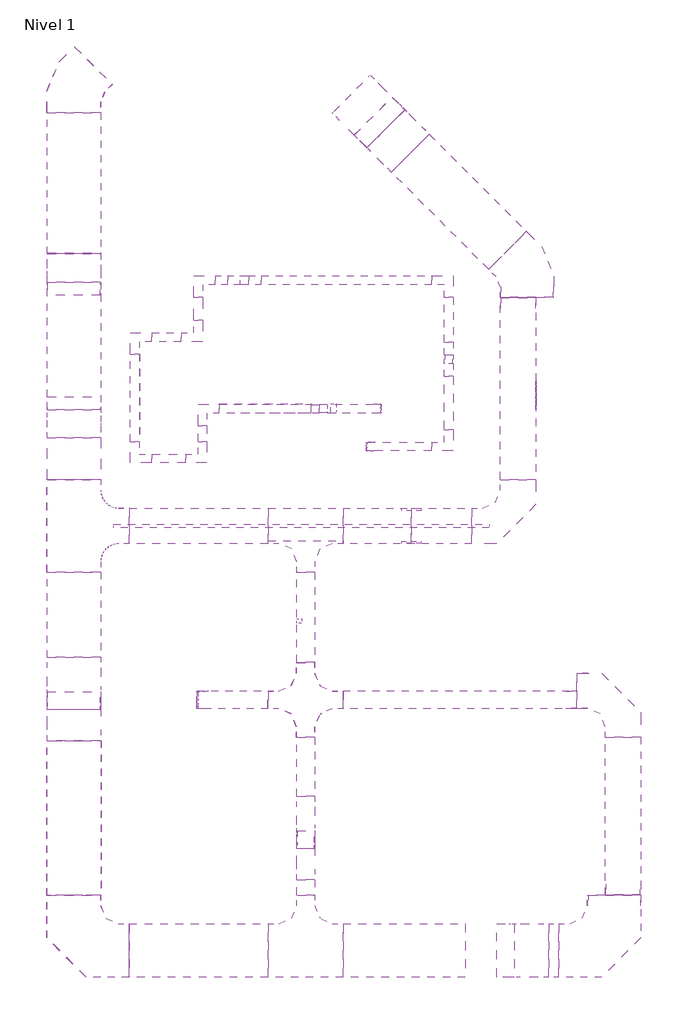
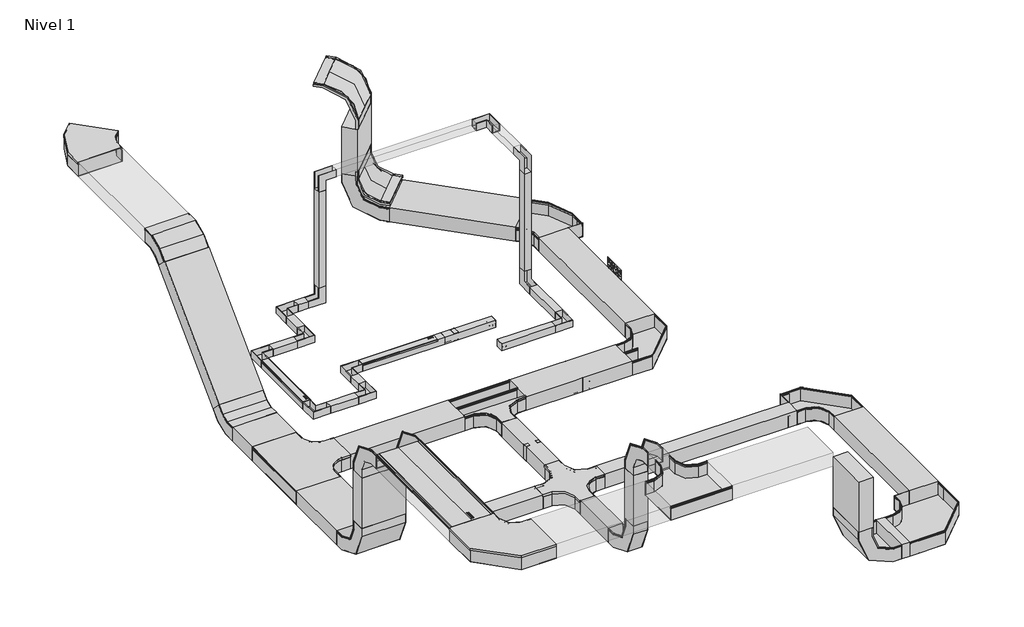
# One storey, incomplete: 36 cable carrier fittings, 36 cable carrier segments, 19 proxies.
"""IFC4 building model written with IfcOpenShell, lengths in millimetres."""

from ifc_helpers import new_model, si_unit, frame, origin, place, context, project, spatial, polyline, outline, extrude, transform, mapped, element, save
from components import generic_models_e08e2e93, generic_models_6503f62f, generic_models_c980e6e2, generic_models_5eda5abc, generic_models_029ad9ad, generic_models_4b91ea04, generic_models_b537d021, generic_models_f615600c, generic_models_85299ec2, generic_models_8c51f1e9, generic_models_648d6697, generic_models_243004cf, generic_models_e8f70c77, generic_models_0b94fb28, generic_models_92a7ed6a, generic_models_f5429365, generic_models_22f00882, generic_models_8213715d, cable_carrier_fitting_c11d5971, cable_carrier_fitting_7dd08698, cable_carrier_fitting_1b124e51, cable_carrier_fitting_58051795, cable_carrier_fitting_2066f91e, cable_carrier_fitting_6ee26a38, cable_carrier_fitting_8f606e74, cable_carrier_fitting_ebb957c4, cable_carrier_fitting_da196a82, cable_carrier_fitting_676bfd4c, cable_carrier_fitting_0c136e6a, cable_carrier_fitting_4fe643f0, cable_carrier_fitting_583218a9, cable_carrier_fitting_2e4e60a8, cable_carrier_fitting_490ff1a4, cable_carrier_fitting_9a046f3b, cable_carrier_fitting_3c1a814d, cable_carrier_fitting_408e2334, cable_carrier_fitting_66a21cff, cable_carrier_fitting_30d9f417, cable_carrier_fitting_c155dae2

model = new_model("IFC4")

# Units and contexts
model_context = context("Model", 3, world=origin())
ifc_project = project(units=[si_unit("LENGTHUNIT", "METRE", prefix="MILLI")], contexts=[model_context])

# Site, building, storey
site = spatial("IfcSite", under=ifc_project)
building = spatial("IfcBuilding", under=site)
storey = spatial("IfcBuildingStorey", under=building, Name="Nivel 1", Elevation=0.0)

# Proxies
placement = place(None, origin())
generic_models_shape = generic_models_e08e2e93(model_context)
element("IfcBuildingElementProxy", 1, Name="Cable_Tray_Cover_TAS_Basortray : Basortray TAS 100-GS", ObjectType="Cable_Tray_Cover_TAS_Basortray : Basortray TAS 100-GS", at=placement, inside=storey, context=model_context, shape_type="MappedRepresentation", body=[
    mapped(generic_models_shape, transform((-2932.7418165, -1714.0005288, 1505.0411788), x_axis=(1.0, 0.0, 0.0), y_axis=(0.0, 1.0, 0.0), z_axis=(0.0, 0.0, 1.0))),
])
generic_models_2_shape = generic_models_6503f62f(model_context)
element("IfcBuildingElementProxy", 2, Name="Cable_Tray_Cover_TCCERC45_Basortray : Basortray TCCERC45-300-GS", ObjectType="Cable_Tray_Cover_TCCERC45_Basortray : Basortray TCCERC45-300-GS", at=placement, inside=storey, context=model_context, shape_type="MappedRepresentation", body=[
    mapped(generic_models_2_shape, transform((-4232.7386404, -1120.0766836, 1505.0520425), x_axis=(-1.0, 0.0, 0.0), y_axis=(0.0, -1.0, 0.0), z_axis=(0.0, 0.0, 1.0))),
])
generic_models_3_shape = generic_models_c980e6e2(model_context)
element("IfcBuildingElementProxy", 3, Name="Cable_Tray_Cover_TCCERC_Basortray : Basortray TCCERC 300-GS", ObjectType="Cable_Tray_Cover_TCCERC_Basortray : Basortray TCCERC 300-GS", at=placement, inside=storey, context=model_context, shape_type="MappedRepresentation", body=[
    mapped(generic_models_3_shape, transform((-2483.1374655, 612.2409935, 1535.0411788), x_axis=(0.7071067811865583, 0.7071067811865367, 0.0), y_axis=(-0.7071067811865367, 0.7071067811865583, 0.0), z_axis=(0.0, 0.0, 1.0))),
])
generic_models_4_shape = generic_models_5eda5abc(model_context)
element("IfcBuildingElementProxy", 4, Name="Cable_Tray_Cover_TCPERC45_Basortray : Basortray TCPERC45-300-GS", ObjectType="Cable_Tray_Cover_TCPERC45_Basortray : Basortray TCPERC45-300-GS", at=placement, inside=storey, context=model_context, shape_type="MappedRepresentation", body=[
    mapped(generic_models_4_shape, transform((-4083.8612043, 762.7979534, 2309.2411788), x_axis=(1.0, 0.0, 0.0), y_axis=(0.0, 1.0, 0.0), z_axis=(0.0, 0.0, 1.0))),
])
generic_models_5_shape = generic_models_029ad9ad(model_context)
element("IfcBuildingElementProxy", 5, Name="Cable_Tray_Support_Box_SUCP_Basortray : Basortray SUCP-GS", ObjectType="Cable_Tray_Support_Box_SUCP_Basortray : Basortray SUCP-GS", at=placement, inside=storey, context=model_context, shape_type="MappedRepresentation", body=[
    mapped(generic_models_5_shape, transform((-1641.458026, -880.1930657, 1512.1289575), x_axis=(0.0, 1.0, 0.0), y_axis=(0.0, 0.0, 1.0), z_axis=(1.0, 0.0, 0.0))),
])
generic_models_6_shape = generic_models_4b91ea04(model_context)
element("IfcBuildingElementProxy", 6, Name="Cable_Tray_FinalCover_TFERE 50_Basortray : Basortray TFERE 50-GS", ObjectType="Cable_Tray_FinalCover_TFERE 50_Basortray : Basortray TFERE 50-GS", at=placement, inside=storey, context=model_context, shape_type="MappedRepresentation", body=[
    mapped(generic_models_6_shape, transform((-2591.3454826, -1169.6026958, 1500.0), x_axis=(0.0, -1.0, 0.0), y_axis=(0.0, 0.0, 1.0), z_axis=(-1.0, 0.0, 0.0))),
])
element("IfcBuildingElementProxy", 7, Name="Cable_Tray_FinalCover_TFERE 50_Basortray : Basortray TFERE 50-GS", ObjectType="Cable_Tray_FinalCover_TFERE 50_Basortray : Basortray TFERE 50-GS", at=placement, inside=storey, context=model_context, shape_type="MappedRepresentation", body=[
    mapped(generic_models_6_shape, transform((-2510.692195, -956.9482563, 1510.5), x_axis=(0.0, 1.0, 0.0), y_axis=(0.0, 0.0, 1.0), z_axis=(1.0, 0.0, 0.0))),
])
generic_models_7_shape = generic_models_b537d021(model_context)
element("IfcBuildingElementProxy", 8, Name="Cable_Tray_CoverRetainer_PTER 50x50_Basortray : Basortray PTER 50x50-i304", ObjectType="Cable_Tray_CoverRetainer_PTER 50x50_Basortray : Basortray PTER 50x50-i304", at=placement, inside=storey, context=model_context, shape_type="MappedRepresentation", body=[
    mapped(generic_models_7_shape, transform((-2761.7009747, -981.9442035, 1535.5), x_axis=(6.754696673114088e-05, 0.9999999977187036, 0.0), y_axis=(-0.9999999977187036, 6.754696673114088e-05, 0.0), z_axis=(0.0, 0.0, 1.0))),
])
generic_models_8_shape = generic_models_f615600c(model_context)
element("IfcBuildingElementProxy", 9, Name="Cable_Tray_CoverRetainer_P T ERE_Basortray : Basortray P T ERE-i304-100", ObjectType="Cable_Tray_CoverRetainer_P T ERE_Basortray : Basortray P T ERE-i304-100", at=placement, inside=storey, context=model_context, shape_type="MappedRepresentation", body=[
    mapped(generic_models_8_shape, transform((-2882.7384407, -2161.1537937, 1505.0485729), x_axis=(0.0, -2.4928024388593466e-05, -0.9999999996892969), y_axis=(0.0, 0.9999999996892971, -2.4928024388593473e-05), z_axis=(1.0000000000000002, 0.0, 0.0))),
])
generic_models_9_shape = generic_models_85299ec2(model_context)
element("IfcBuildingElementProxy", 10, Name="Cable_Tray_FinalCover_TFERE_Basortray : Basortray TFERE 100x80-GS", ObjectType="Cable_Tray_FinalCover_TFERE_Basortray : Basortray TFERE 100x80-GS", at=placement, inside=storey, context=model_context, shape_type="MappedRepresentation", body=[
    mapped(generic_models_9_shape, transform((-3542.7384407, -2590.0616098, 1446.2337687), x_axis=(0.0, 1.0, 0.0), y_axis=(0.0, 0.0, -1.0), z_axis=(-1.0, 0.0, 0.0))),
])
generic_models_10_shape = generic_models_8c51f1e9(model_context)
element("IfcBuildingElementProxy", 11, Name="Cable_Tray_Cover_TCPERC_Basortray : Basortray TCPERC 300-GS", ObjectType="Cable_Tray_Cover_TCPERC_Basortray : Basortray TCPERC 300-GS", at=placement, inside=storey, context=model_context, shape_type="MappedRepresentation", body=[
    mapped(generic_models_10_shape, transform((-4234.6449326, -3995.6258724, 2335.044089), x_axis=(0.0, 1.0, 0.0), y_axis=(-1.0, 0.0, 0.0), z_axis=(0.0, 0.0, 1.0))),
])
generic_models_11_shape = generic_models_648d6697(model_context)
element("IfcBuildingElementProxy", 12, Name="Cable_Tray_Cover_TCXERC_Basortray : Basortray TCXERC 300x100-GS", ObjectType="Cable_Tray_Cover_TCXERC_Basortray : Basortray TCXERC 300x100-GS", at=placement, inside=storey, context=model_context, shape_type="MappedRepresentation", body=[
    mapped(generic_models_11_shape, transform((-2483.1374655, 612.2409935, 2310.8456675), x_axis=(0.7071067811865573, 0.7071067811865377, 0.0), y_axis=(0.0, 0.0, 1.0), z_axis=(0.7071067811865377, -0.7071067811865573, 0.0))),
])
generic_models_12_shape = generic_models_243004cf(model_context)
element("IfcBuildingElementProxy", 13, Name="Cable_Tray_Cover_TCXERC45_Basortray : Basortray TCXERC45-300x100-GS", ObjectType="Cable_Tray_Cover_TCXERC45_Basortray : Basortray TCXERC45-300x100-GS", at=placement, inside=storey, context=model_context, shape_type="MappedRepresentation", body=[
    mapped(generic_models_12_shape, transform((-4232.7384407, -321.6280499, 2211.0289102), x_axis=(-1.0, 0.0, 0.0), y_axis=(0.0, -0.7071067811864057, -0.7071067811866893), z_axis=(0.0, -0.7071067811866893, 0.7071067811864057))),
])
generic_models_13_shape = generic_models_e8f70c77(model_context)
element("IfcBuildingElementProxy", 14, Name="Cable_Tray_Cover_T ERE 50_Basortray : Basortray TERE 50-GS", ObjectType="Cable_Tray_Cover_T ERE 50_Basortray : Basortray TERE 50-GS", at=placement, inside=storey, context=model_context, shape_type="MappedRepresentation", body=[
    mapped(generic_models_13_shape, transform((-2905.6921948, -956.9529012, 1535.5), x_axis=(-9.330842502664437e-05, 0.9999999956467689, 0.0), y_axis=(-0.9999999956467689, -9.330842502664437e-05, 0.0), z_axis=(0.0, 0.0, 1.0))),
])
generic_models_14_shape = generic_models_0b94fb28(model_context)
element("IfcBuildingElementProxy", 15, Name="Cable_Tray_Cover_T ERE 50_Basortray : Basortray TERE 50-GS", ObjectType="Cable_Tray_Cover_T ERE 50_Basortray : Basortray TERE 50-GS", at=placement, inside=storey, context=model_context, shape_type="MappedRepresentation", body=[
    mapped(generic_models_14_shape, transform((-3890.3692191, -1141.998818, 1535.5), x_axis=(1.0, 0.0, 0.0), y_axis=(0.0, 1.0, 0.0), z_axis=(0.0, 0.0, 1.0))),
])
generic_models_15_shape = generic_models_92a7ed6a(model_context)
element("IfcBuildingElementProxy", 16, Name="Cable_Tray_Cover_T ERE_Basortray : Basortray T ERE-GS-300", ObjectType="Cable_Tray_Cover_T ERE_Basortray : Basortray T ERE-GS-300", at=placement, inside=storey, context=model_context, shape_type="MappedRepresentation", body=[
    mapped(generic_models_15_shape, transform((-4232.7384407, -3684.5395421, 2335.044089), x_axis=(1.0, 0.0, 0.0), y_axis=(0.0, 1.0, 0.0), z_axis=(0.0, 0.0, 1.0))),
])
generic_models_16_shape = generic_models_f5429365(model_context)
element("IfcBuildingElementProxy", 17, Name="Cable_Tray_Cover_TTERC_Basortray : Basortray TTERC 300-GC", ObjectType="Cable_Tray_Cover_TTERC_Basortray : Basortray TTERC 300-GC", at=placement, inside=storey, context=model_context, shape_type="MappedRepresentation", body=[
    mapped(generic_models_16_shape, transform((-4082.0638429, -1614.6768328, 1505.0505408), x_axis=(0.0, 1.0, 0.0), y_axis=(-0.9999999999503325, 0.0, 9.966691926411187e-06), z_axis=(9.966691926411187e-06, 0.0, 0.9999999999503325))),
])
generic_models_17_shape = generic_models_22f00882(model_context)
element("IfcBuildingElementProxy", 18, Name="Cable_Tray_Cover_TCRERC_Basortray : Basortray TCRERC 100-GS", ObjectType="Cable_Tray_Cover_TCRERC_Basortray : Basortray TCRERC 100-GS", at=placement, inside=storey, context=model_context, shape_type="MappedRepresentation", body=[
    mapped(generic_models_17_shape, transform((-2883.7907322, -2590.6813983, 1505.0590309), x_axis=(0.0, 0.9999999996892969, -2.492802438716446e-05), y_axis=(-1.0000000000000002, 0.0, 0.0), z_axis=(0.0, 2.492802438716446e-05, 0.9999999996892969))),
])
generic_models_18_shape = generic_models_8213715d(model_context)
element("IfcBuildingElementProxy", 19, Name="Cable_Tray_Divider_Profile_PS_Basortray : Basortray PS-GS-100", ObjectType="Cable_Tray_Divider_Profile_PS_Basortray : Basortray PS-GS-100", at=placement, inside=storey, context=model_context, shape_type="MappedRepresentation", body=[
    mapped(generic_models_18_shape, transform((-4010.1217377, -1614.5395421, 1407.5811788), x_axis=(0.0, -1.0, 0.0), y_axis=(1.0, 0.0, 0.0), z_axis=(0.0, 0.0, 1.0))),
])

# Cable carrier fittings
cable_carrier_fitting_shape = cable_carrier_fitting_c11d5971(model_context)
element("IfcCableCarrierFitting", 20, ObjectType="CCERC45_Vertical_Inside_Bend-Basortray : Basortray CCERC45-GS", at=placement, inside=storey, context=model_context, shape_type="MappedRepresentation", body=[
    mapped(cable_carrier_fitting_shape, transform((-4382.7386404, -916.0766836, 1505.0520425), x_axis=(0.0, 1.0, 0.0), y_axis=(0.0, 0.0, 1.0), z_axis=(1.0, 0.0, 0.0))),
])
cable_carrier_fitting_2_shape = cable_carrier_fitting_7dd08698(model_context)
element("IfcCableCarrierFitting", 21, ObjectType="JUER 50x50_Junction-Basortray : Basortray JUER50-GS", at=placement, inside=storey, context=model_context, shape_type="MappedRepresentation", body=[
    mapped(cable_carrier_fitting_2_shape, transform((-2855.692195, -956.9482563, 1500.0), x_axis=(-0.9999999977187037, -6.754696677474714e-05, 0.0), y_axis=(6.754696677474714e-05, -0.9999999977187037, 0.0), z_axis=(0.0, 0.0, 1.0))),
])
cable_carrier_fitting_3_shape = cable_carrier_fitting_1b124e51(model_context)
element("IfcCableCarrierFitting", 22, ObjectType="CCERC_Vertical_Inside_Bend-Basortray : Basortray CCERC-GS", at=placement, inside=storey, context=model_context, shape_type="MappedRepresentation", body=[
    mapped(cable_carrier_fitting_3_shape, transform((-4232.7386404, -2594.5395421, 1455.0520425), x_axis=(0.0, -1.0, 0.0), y_axis=(0.0, 0.0, 1.0), z_axis=(-1.0, 0.0, 0.0))),
])
element("IfcCableCarrierFitting", 23, ObjectType="CCERC_Vertical_Inside_Bend-Basortray : Basortray CCERC-GS", at=placement, inside=storey, context=model_context, shape_type="MappedRepresentation", body=[
    mapped(cable_carrier_fitting_3_shape, transform((-1812.7384407, -3994.5395421, 1455.0590007), x_axis=(0.0, 0.0, -1.0), y_axis=(1.0, 0.0, 0.0), z_axis=(0.0, -1.0, 0.0))),
])
element("IfcCableCarrierFitting", 24, ObjectType="CCERC_Vertical_Inside_Bend-Basortray : Basortray CCERC-GS", at=placement, inside=storey, context=model_context, shape_type="MappedRepresentation", body=[
    mapped(cable_carrier_fitting_3_shape, transform((-2518.4928046, 647.5963326, 1455.0411788), x_axis=(0.0, 0.0, -1.0), y_axis=(0.7071067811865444, -0.7071067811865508, 0.0), z_axis=(-0.7071067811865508, -0.7071067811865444, 0.0))),
])
cable_carrier_fitting_4_shape = cable_carrier_fitting_58051795(model_context)
element("IfcCableCarrierFitting", 25, ObjectType="CCERC_Vertical_Inside_Bend-Basortray : Basortray CCERC-GS", at=placement, inside=storey, context=model_context, shape_type="MappedRepresentation", body=[
    mapped(cable_carrier_fitting_4_shape, transform((-2932.7384407, -3374.5400417, 1455.0590007), x_axis=(0.0, 0.0, -1.0), y_axis=(0.0, 1.0, 0.0), z_axis=(1.0, 0.0, 0.0))),
])
cable_carrier_fitting_5_shape = cable_carrier_fitting_2066f91e(model_context)
element("IfcCableCarrierFitting", 26, ObjectType="CCER 50x50_Vertical_Inside_Bend-Basortray : Basortray CCER50-GS", at=placement, inside=storey, context=model_context, shape_type="MappedRepresentation", body=[
    mapped(cable_carrier_fitting_5_shape, transform((-2131.3454826, -679.6026958, 1500.0), x_axis=(0.0, 1.0, 0.0), y_axis=(0.0, 0.0, 1.0), z_axis=(1.0, 0.0, 0.0))),
])
element("IfcCableCarrierFitting", 27, ObjectType="CCER 50x50_Vertical_Inside_Bend-Basortray : Basortray CCER50-GS", at=placement, inside=storey, context=model_context, shape_type="MappedRepresentation", body=[
    mapped(cable_carrier_fitting_5_shape, transform((-3275.5826719, -236.998818, 1510.5), x_axis=(1.0, 0.0, 0.0), y_axis=(0.0, 0.0, 1.0), z_axis=(0.0, -1.0, 0.0))),
])
cable_carrier_fitting_6_shape = cable_carrier_fitting_6ee26a38(model_context)
element("IfcCableCarrierFitting", 28, ObjectType="CPER 50x50_Horizontal_Bend-Basortray : Basortray CPER50-GC", at=placement, inside=storey, context=model_context, shape_type="MappedRepresentation", body=[
    mapped(cable_carrier_fitting_6_shape, transform((-3535.5826719, -556.998818, 1510.5), x_axis=(1.0, 0.0, 0.0), y_axis=(0.0, 1.0, 0.0), z_axis=(0.0, 0.0, 1.0))),
])
element("IfcCableCarrierFitting", 29, ObjectType="CPER 50x50_Horizontal_Bend-Basortray : Basortray CPER50-GS", at=placement, inside=storey, context=model_context, shape_type="MappedRepresentation", body=[
    mapped(cable_carrier_fitting_6_shape, transform((-3891.0885985, -556.998818, 1510.5), x_axis=(-1.0, 0.0, 0.0), y_axis=(0.0, -1.0, 0.0), z_axis=(0.0, 0.0, 1.0))),
])
element("IfcCableCarrierFitting", 30, ObjectType="CPER 50x50_Horizontal_Bend-Basortray : Basortray CPER50-GS", at=placement, inside=storey, context=model_context, shape_type="MappedRepresentation", body=[
    mapped(cable_carrier_fitting_6_shape, transform((-3891.0885985, -1236.998818, 1510.5), x_axis=(0.0, -1.0, 0.0), y_axis=(1.0, 0.0, 0.0), z_axis=(0.0, 0.0, 1.0))),
])
element("IfcCableCarrierFitting", 31, ObjectType="CPER 50x50_Horizontal_Bend-Basortray : Basortray CPER50-GS", at=placement, inside=storey, context=model_context, shape_type="MappedRepresentation", body=[
    mapped(cable_carrier_fitting_6_shape, transform((-3511.0794969, -1236.998818, 1510.5), x_axis=(1.0, 0.0, 0.0), y_axis=(0.0, 1.0, 0.0), z_axis=(0.0, 0.0, 1.0))),
])
element("IfcCableCarrierFitting", 32, ObjectType="CPER 50x50_Horizontal_Bend-Basortray : Basortray CPER50-GS", at=placement, inside=storey, context=model_context, shape_type="MappedRepresentation", body=[
    mapped(cable_carrier_fitting_6_shape, transform((-3511.0885971, -957.0096256, 1510.5), x_axis=(-0.9999999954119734, -9.579171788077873e-05, 0.0), y_axis=(9.579171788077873e-05, -0.9999999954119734, 0.0), z_axis=(0.0, 0.0, 1.0))),
])
element("IfcCableCarrierFitting", 33, ObjectType="CPER 50x50_Horizontal_Bend-Basortray : Basortray CPER50-GS", at=placement, inside=storey, context=model_context, shape_type="MappedRepresentation", body=[
    mapped(cable_carrier_fitting_6_shape, transform((-2131.3454826, -1169.6026958, 1500.0), x_axis=(1.0, 0.0, 0.0), y_axis=(0.0, 1.0, 0.0), z_axis=(0.0, 0.0, 1.0))),
])
element("IfcCableCarrierFitting", 34, ObjectType="CPER 50x50_Horizontal_Bend-Basortray : Basortray CPER50-GS", at=placement, inside=storey, context=model_context, shape_type="MappedRepresentation", body=[
    mapped(cable_carrier_fitting_6_shape, transform((-2131.3454826, -236.998818, 2391.5969095), x_axis=(0.0, 1.0, 0.0), y_axis=(-1.0, 0.0, 0.0), z_axis=(0.0, 0.0, 1.0))),
])
element("IfcCableCarrierFitting", 35, ObjectType="CPER 50x50_Horizontal_Bend-Basortray : Basortray CPER50-GS", at=placement, inside=storey, context=model_context, shape_type="MappedRepresentation", body=[
    mapped(cable_carrier_fitting_6_shape, transform((-3535.5826719, -236.998818, 1510.5), x_axis=(-1.0, 0.0, 0.0), y_axis=(0.0, -1.0, 0.0), z_axis=(0.0, 0.0, 1.0))),
])
cable_carrier_fitting_7_shape = cable_carrier_fitting_8f606e74(model_context)
element("IfcCableCarrierFitting", 36, ObjectType="CPERC45_Horizontal_Bend-Basortray : Basortray CPERC45-GS", at=placement, inside=storey, context=model_context, shape_type="MappedRepresentation", body=[
    mapped(cable_carrier_fitting_7_shape, transform((-4161.6008113, 715.6867364, 2259.2411788), x_axis=(-0.707106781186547, -0.707106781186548, 0.0), y_axis=(0.707106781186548, -0.707106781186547, 0.0), z_axis=(0.0, 0.0, 1.0))),
])
element("IfcCableCarrierFitting", 37, ObjectType="CPERC45_Horizontal_Bend-Basortray : Basortray CPERC45-GS", at=placement, inside=storey, context=model_context, shape_type="MappedRepresentation", body=[
    mapped(cable_carrier_fitting_7_shape, transform((-1841.458026, -130.0422463, 1455.0411788), x_axis=(0.0, 1.0, 0.0), y_axis=(-1.0, 0.0, 0.0), z_axis=(0.0, 0.0, 1.0))),
])
cable_carrier_fitting_8_shape = cable_carrier_fitting_ebb957c4(model_context)
element("IfcCableCarrierFitting", 38, ObjectType="CPERC_Horizontal Bend_Basortray : Basortray CPERC-GS", at=placement, inside=storey, context=model_context, shape_type="MappedRepresentation", body=[
    mapped(cable_carrier_fitting_8_shape, transform((-4232.7384407, -3994.5395421, 2285.044089), x_axis=(0.0, -1.0, 0.0), y_axis=(1.0, 0.0, 0.0), z_axis=(0.0, 0.0, 1.0))),
])
element("IfcCableCarrierFitting", 39, ObjectType="CPERC_Horizontal Bend_Basortray : Basortray CPERC-GS", at=placement, inside=storey, context=model_context, shape_type="MappedRepresentation", body=[
    mapped(cable_carrier_fitting_8_shape, transform((-1202.7384407, -3994.5395421, 1455.0590007), x_axis=(1.0, 0.0, 0.0), y_axis=(0.0, 1.0, 0.0), z_axis=(0.0, 0.0, 1.0))),
])
cable_carrier_fitting_9_shape = cable_carrier_fitting_da196a82(model_context)
element("IfcCableCarrierFitting", 40, ObjectType="CPERC_Horizontal Bend_Basortray : Basortray CPERC-GS", at=placement, inside=storey, context=model_context, shape_type="MappedRepresentation", body=[
    mapped(cable_carrier_fitting_9_shape, transform((-1152.7384407, -2539.4706165, 1455.0590007), x_axis=(0.0, 1.0, 0.0), y_axis=(-1.0, 0.0, 0.0), z_axis=(0.0, 0.0, 1.0))),
])
element("IfcCableCarrierFitting", 41, ObjectType="CPERC_Horizontal Bend_Basortray : Basortray CPERC-GS", at=placement, inside=storey, context=model_context, shape_type="MappedRepresentation", body=[
    mapped(cable_carrier_fitting_9_shape, transform((-1741.458026, -1614.5395421, 1455.0411788), x_axis=(1.0, 0.0, 0.0), y_axis=(0.0, 1.0, 0.0), z_axis=(0.0, 0.0, 1.0))),
])
cable_carrier_fitting_10_shape = cable_carrier_fitting_676bfd4c(model_context)
element("IfcCableCarrierFitting", 42, ObjectType="CRERC_Horizontal Cross-over_Basortray : Basortray CRERC-GS", at=placement, inside=storey, context=model_context, shape_type="MappedRepresentation", body=[
    mapped(cable_carrier_fitting_10_shape, transform((-2932.7384407, -2589.4706165, 1455.0590007), x_axis=(-1.0, 0.0, 0.0), y_axis=(0.0, -0.9999999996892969, 2.492802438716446e-05), z_axis=(0.0, 2.492802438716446e-05, 0.9999999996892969))),
])
cable_carrier_fitting_11_shape = cable_carrier_fitting_0c136e6a(model_context)
element("IfcCableCarrierFitting", 43, ObjectType="CXER 50x50_Vertical_Outside_Bend-Basortray : Basortray CXER50-GS", at=placement, inside=storey, context=model_context, shape_type="MappedRepresentation", body=[
    mapped(cable_carrier_fitting_11_shape, transform((-2131.3454826, -679.6026958, 2391.5969095), x_axis=(0.0, -1.0, 0.0), y_axis=(0.0, 0.0, -1.0), z_axis=(1.0, 0.0, 0.0))),
])
element("IfcCableCarrierFitting", 44, ObjectType="CXER 50x50_Vertical_Outside_Bend-Basortray : Basortray CXER50-GS", at=placement, inside=storey, context=model_context, shape_type="MappedRepresentation", body=[
    mapped(cable_carrier_fitting_11_shape, transform((-3275.5826719, -236.998818, 2391.5969095), x_axis=(-1.0, 0.0, 0.0), y_axis=(0.0, 0.0, -1.0), z_axis=(0.0, -1.0, 0.0))),
])
cable_carrier_fitting_12_shape = cable_carrier_fitting_4fe643f0(model_context)
element("IfcCableCarrierFitting", 45, ObjectType="CXERC45_Vertical_Outside_Bend-Basortray : Basortray CXERC45-GS", at=placement, inside=storey, context=model_context, shape_type="MappedRepresentation", body=[
    mapped(cable_carrier_fitting_12_shape, transform((-4232.7384407, -247.3818379, 2143.853766), x_axis=(0.0, 0.7071067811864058, 0.7071067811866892), y_axis=(0.0, 0.7071067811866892, -0.7071067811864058), z_axis=(-1.0, 0.0, 0.0))),
])
cable_carrier_fitting_13_shape = cable_carrier_fitting_583218a9(model_context)
element("IfcCableCarrierFitting", 46, ObjectType="CXERC_Vertical_Outside_Bend-Basortray : Basortray CXERC-GS", at=placement, inside=storey, context=model_context, shape_type="MappedRepresentation", body=[
    mapped(cable_carrier_fitting_13_shape, transform((-4232.7384407, -2594.5395421, 2285.044089), x_axis=(0.0, 0.0, 1.0), y_axis=(0.0, -1.0, 0.0), z_axis=(1.0, 0.0, 0.0))),
])
cable_carrier_fitting_14_shape = cable_carrier_fitting_2e4e60a8(model_context)
element("IfcCableCarrierFitting", 47, ObjectType="CXERC_Vertical_Outside_Bend-Basortray : Basortray CXERC-GS", at=placement, inside=storey, context=model_context, shape_type="MappedRepresentation", body=[
    mapped(cable_carrier_fitting_14_shape, transform((-2932.7384407, -3374.5395421, 2285.0252502), x_axis=(0.0, 1.0, 0.0), y_axis=(0.0, 0.0, -1.0), z_axis=(-1.0, 0.0, 0.0))),
])
cable_carrier_fitting_15_shape = cable_carrier_fitting_490ff1a4(model_context)
element("IfcCableCarrierFitting", 48, ObjectType="TERC_Horizontal Tee_Basortray : Basortray TERC-GS", at=placement, inside=storey, context=model_context, shape_type="MappedRepresentation", body=[
    mapped(cable_carrier_fitting_15_shape, transform((-4232.7386404, -1614.5395421, 1455.0520425), x_axis=(0.0, 1.0, 0.0), y_axis=(-0.9999999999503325, 0.0, 9.966691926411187e-06), z_axis=(9.966691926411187e-06, 0.0, 0.9999999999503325))),
])
cable_carrier_fitting_16_shape = cable_carrier_fitting_9a046f3b(model_context)
element("IfcCableCarrierFitting", 49, ObjectType="TERC_Horizontal Tee_Basortray : Basortray TERC-GS", at=placement, inside=storey, context=model_context, shape_type="MappedRepresentation", body=[
    mapped(cable_carrier_fitting_16_shape, transform((-2932.7384407, -3994.5395421, 2285.0252502), x_axis=(-0.999999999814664, 0.0, 1.9252847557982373e-05), y_axis=(0.0, -1.0000000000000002, 0.0), z_axis=(1.9252847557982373e-05, 0.0, 0.999999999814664))),
])
cable_carrier_fitting_17_shape = cable_carrier_fitting_3c1a814d(model_context)
element("IfcCableCarrierFitting", 50, ObjectType="REER_Angle Reducer-Basortray : Basortray REER-GS", at=placement, inside=storey, context=model_context, shape_type="MappedRepresentation", body=[
    mapped(cable_carrier_fitting_17_shape, transform((-1202.7384407, -3684.5395421, 1455.0590007), x_axis=(0.0, 1.0, 0.0), y_axis=(-1.0, 0.0, 0.0), z_axis=(0.0, 0.0, 1.0))),
])
element("IfcCableCarrierFitting", 51, ObjectType="REER_Angle Reducer-Basortray : Basortray REER-GS", at=placement, inside=storey, context=model_context, shape_type="MappedRepresentation", body=[
    mapped(cable_carrier_fitting_17_shape, transform((-1691.458026, -334.0422463, 1455.0411788), x_axis=(0.0, -1.0, 0.0), y_axis=(1.0, 0.0, 0.0), z_axis=(0.0, 0.0, 1.0))),
])
cable_carrier_fitting_18_shape = cable_carrier_fitting_408e2334(model_context)
element("IfcCableCarrierFitting", 52, ObjectType="REER_Angle Reducer-Basortray : Basortray REER-GS", at=placement, inside=storey, context=model_context, shape_type="MappedRepresentation", body=[
    mapped(cable_carrier_fitting_18_shape, transform((-1413.5384407, -2589.4706165, 1455.0590007), x_axis=(1.0, 0.0, 0.0), y_axis=(0.0, 1.0, 0.0), z_axis=(0.0, 0.0, 1.0))),
])
cable_carrier_fitting_19_shape = cable_carrier_fitting_66a21cff(model_context)
element("IfcCableCarrierFitting", 53, ObjectType="JUER_Junction-Basortray : Basortray JUER-GS", at=placement, inside=storey, context=model_context, shape_type="MappedRepresentation", body=[
    mapped(cable_carrier_fitting_19_shape, transform((-2341.6010037, -1614.5395421, 1455.0411788), x_axis=(1.0, 0.0, 0.0), y_axis=(0.0, 1.0, 0.0), z_axis=(0.0, 0.0, 1.0))),
])
cable_carrier_fitting_20_shape = cable_carrier_fitting_30d9f417(model_context)
element("IfcCableCarrierFitting", 54, ObjectType="JUER_Junction-Basortray : Basortray JUER-GS", at=placement, inside=storey, context=model_context, shape_type="MappedRepresentation", body=[
    mapped(cable_carrier_fitting_20_shape, transform((-2340.8010037, -1614.5395421, 1455.0411788), x_axis=(1.0, 0.0, 0.0), y_axis=(0.0, 1.0, 0.0), z_axis=(0.0, 0.0, 1.0))),
])
cable_carrier_fitting_21_shape = cable_carrier_fitting_c155dae2(model_context)
element("IfcCableCarrierFitting", 55, ObjectType="AS_Add-on Tee_Derivation_Basortray : Basortray AS-GS", at=placement, inside=storey, context=model_context, shape_type="MappedRepresentation", body=[
    mapped(cable_carrier_fitting_21_shape, transform((-2932.7384407, -1614.5395421, 1455.0411788), x_axis=(1.0, 0.0, 0.0), y_axis=(0.0, 1.0, 0.0), z_axis=(0.0, 0.0, 1.0))),
])

# Cable carrier segments
element("IfcCableCarrierSegment", 56, ObjectType="Basortray ERE-GS", at=placement, inside=storey, context=model_context, shape_type="SweptSolid", body=[
    extrude(outline(polyline([(0.0, -300.0), (0.0, 0.0), (476.0, 0.0), (476.0, -300.0), (0.0, -300.0)])), frame((-4082.7391387, -1874.5395421, 1405.0505475), z_axis=(9.966691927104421e-06, 0.0, 0.9999999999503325), x_axis=(0.0, -1.0, 0.0)), (0.0, 0.0, 1.0), 100.0),
])
element("IfcCableCarrierSegment", 57, ObjectType="Basortray ERE-GS", at=placement, inside=storey, context=model_context, shape_type="SweptSolid", body=[
    extrude(outline(polyline([(150.0, 208.113883), (150.0, 108.113883), (-150.0, 108.113883), (-150.0, 208.113883), (150.0, 208.113883)])), frame((-4232.7386404, -1038.6655646, 1646.8875152), z_axis=(2.1918799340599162e-07, 0.7071067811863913, 0.7071067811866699), x_axis=(0.999999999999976, -1.5498931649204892e-07, -1.5498931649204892e-07)), (0.0, 0.0, 1.0), 910.930295),
])
element("IfcCableCarrierSegment", 58, ObjectType="Basortray ERE-GS", at=placement, inside=storey, context=model_context, shape_type="SweptSolid", body=[
    extrude(outline(polyline([(-4082.7384407, -89.5226591), (-4382.7384407, -89.5226591), (-4382.7384407, 702.0773409), (-4082.7384407, 702.0773409), (-4082.7384407, -89.5226591)])), frame((0.0, 0.0, 2209.2411788), z_axis=(0.0, 0.0, 1.0), x_axis=(1.0, 0.0, 0.0)), (0.0, 0.0, 1.0), 100.0),
])
element("IfcCableCarrierSegment", 59, ObjectType="Basortray ERE50-GS", at=placement, inside=storey, context=model_context, shape_type="SweptSolid", body=[
    extrude(outline(polyline([(-3630.5826719, -531.998818), (-3630.5826719, -581.998818), (-3796.0885985, -581.998818), (-3796.0885985, -531.998818), (-3630.5826719, -531.998818)])), frame((0.0, 0.0, 1485.5), z_axis=(0.0, 0.0, 1.0), x_axis=(1.0, 0.0, 0.0)), (0.0, 0.0, 1.0), 50.0),
])
element("IfcCableCarrierSegment", 60, ObjectType="Basortray ERE50-GS", at=placement, inside=storey, context=model_context, shape_type="SweptSolid", body=[
    extrude(outline(polyline([(-3510.5826719, -461.998818), (-3560.5826719, -461.998818), (-3560.5826719, -331.998818), (-3510.5826719, -331.998818), (-3510.5826719, -461.998818)])), frame((0.0, 0.0, 1485.5), z_axis=(0.0, 0.0, 1.0), x_axis=(1.0, 0.0, 0.0)), (0.0, 0.0, 1.0), 50.0),
])
element("IfcCableCarrierSegment", 61, ObjectType="Basortray ERE50-GS", at=placement, inside=storey, context=model_context, shape_type="SweptSolid", body=[
    extrude(outline(polyline([(-3916.0885985, -651.998818), (-3866.0885985, -651.998818), (-3866.0885985, -1141.998818), (-3916.0885985, -1141.998818), (-3916.0885985, -651.998818)])), frame((0.0, 0.0, 1485.5), z_axis=(0.0, 0.0, 1.0), x_axis=(1.0, 0.0, 0.0)), (0.0, 0.0, 1.0), 50.0),
])
element("IfcCableCarrierSegment", 62, ObjectType="Basortray ERE50-GS", at=placement, inside=storey, context=model_context, shape_type="SweptSolid", body=[
    extrude(outline(polyline([(-3796.0885985, -1261.998818), (-3796.0885985, -1211.998818), (-3606.0794969, -1211.998818), (-3606.0794969, -1261.998818), (-3796.0885985, -1261.998818)])), frame((0.0, 0.0, 1485.5), z_axis=(0.0, 0.0, 1.0), x_axis=(1.0, 0.0, 0.0)), (0.0, 0.0, 1.0), 50.0),
])
element("IfcCableCarrierSegment", 63, ObjectType="Basortray ERE50-GS", at=placement, inside=storey, context=model_context, shape_type="SweptSolid", body=[
    extrude(outline(polyline([(-3486.0794969, -1141.998818), (-3536.0794969, -1141.998818), (-3536.0794969, -1052.0096252), (-3486.0794969, -1052.0096252), (-3486.0794969, -1141.998818)])), frame((0.0, 0.0, 1485.5), z_axis=(0.0, 0.0, 1.0), x_axis=(1.0, 0.0, 0.0)), (0.0, 0.0, 1.0), 50.0),
])
element("IfcCableCarrierSegment", 64, ObjectType="Basortray ERE50-GS", at=placement, inside=storey, context=model_context, shape_type="SweptSolid", body=[
    extrude(outline(polyline([(-2855.692195, -981.9482563), (-2855.692195, -931.9482563), (-2510.692195, -931.9482563), (-2510.692195, -981.9482563), (-2855.692195, -981.9482563)])), frame((0.0, 0.0, 1485.5), z_axis=(0.0, 0.0, 1.0), x_axis=(1.0, 0.0, 0.0)), (0.0, 0.0, 1.0), 50.0),
])
element("IfcCableCarrierSegment", 65, ObjectType="Basortray ERE-GS", at=placement, inside=storey, context=model_context, shape_type="SweptSolid", body=[
    extrude(outline(polyline([(0.0, -200.0), (0.0, 0.0), (780.0001997, 0.0), (780.0001997, -200.0), (0.0, -200.0)])), frame((-3922.7391387, -1514.5395421, 1405.0489529), z_axis=(9.966691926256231e-06, 0.0, 0.9999999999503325), x_axis=(0.9999999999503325, 0.0, -9.966691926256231e-06)), (0.0, 0.0, 1.0), 100.0),
])
element("IfcCableCarrierSegment", 66, ObjectType="Basortray ERE-GS", at=placement, inside=storey, context=model_context, shape_type="SweptSolid", body=[
    extrude(outline(polyline([(0.0, -300.0), (0.0, 0.0), (234.4628585, 0.0), (234.4628585, -300.0), (0.0, -300.0)])), frame((-4082.7391387, -1120.0766836, 1405.0505475), z_axis=(9.966691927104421e-06, 0.0, 0.9999999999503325), x_axis=(0.0, -1.0, 0.0)), (0.0, 0.0, 1.0), 100.0),
])
element("IfcCableCarrierSegment", 67, ObjectType="Basortray ERE-GS", at=placement, inside=storey, context=model_context, shape_type="SweptSolid", body=[
    extrude(outline(polyline([(141.4213562, -87.4032049), (-70.7106781, -299.5352392), (-141.4213563, -228.8245611), (70.7106781, -16.6925268), (141.4213562, -87.4032049)])), frame((-2518.4928046, 489.4824496, 1699.0411788), z_axis=(0.0, -3.3224528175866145e-12, 1.0), x_axis=(-1.0, 0.0, 0.0)), (0.0, 0.0, 1.0), 336.2),
])
element("IfcCableCarrierSegment", 68, ObjectType="Basortray ERE50-GS", at=placement, inside=storey, context=model_context, shape_type="SweptSolid", body=[
    extrude(outline(polyline([(-3180.5826719, -261.998818), (-3180.5826719, -211.998818), (-2226.3454826, -211.998818), (-2226.3454826, -261.998818), (-3180.5826719, -261.998818)])), frame((0.0, 0.0, 2366.5969095), z_axis=(0.0, 0.0, 1.0), x_axis=(1.0, 0.0, 0.0)), (0.0, 0.0, 1.0), 50.0),
])
element("IfcCableCarrierSegment", 69, ObjectType="Basortray ERE50-GS", at=placement, inside=storey, context=model_context, shape_type="SweptSolid", body=[
    extrude(outline(polyline([(-2156.3454826, -331.998818), (-2106.3454826, -331.998818), (-2106.3454826, -584.6026958), (-2156.3454826, -584.6026958), (-2156.3454826, -331.998818)])), frame((0.0, 0.0, 2366.5969095), z_axis=(0.0, 0.0, 1.0), x_axis=(1.0, 0.0, 0.0)), (0.0, 0.0, 1.0), 50.0),
])
element("IfcCableCarrierSegment", 70, ObjectType="Basortray ERE50-GS", at=placement, inside=storey, context=model_context, shape_type="SweptSolid", body=[
    extrude(outline(polyline([(-2156.3454826, -774.6026958), (-2106.3454826, -774.6026958), (-2106.3454826, -1074.6026958), (-2156.3454826, -1074.6026958), (-2156.3454826, -774.6026958)])), frame((0.0, 0.0, 1475.0), z_axis=(0.0, 0.0, 1.0), x_axis=(1.0, 0.0, 0.0)), (0.0, 0.0, 1.0), 50.0),
])
element("IfcCableCarrierSegment", 71, ObjectType="Basortray ERE50-GS", at=placement, inside=storey, context=model_context, shape_type="SweptSolid", body=[
    extrude(outline(polyline([(-2156.3454826, -654.6026958), (-2106.3454826, -654.6026958), (-2106.3454826, -704.6026958), (-2156.3454826, -704.6026958), (-2156.3454826, -654.6026958)])), frame((0.0, 0.0, 1595.0), z_axis=(0.0, 0.0, 1.0), x_axis=(1.0, 0.0, 0.0)), (0.0, 0.0, 1.0), 701.5969095),
])
element("IfcCableCarrierSegment", 72, ObjectType="Basortray ERE50-GS", at=placement, inside=storey, context=model_context, shape_type="SweptSolid", body=[
    extrude(outline(polyline([(-2226.3454826, -1144.6026958), (-2226.3454826, -1194.6026958), (-2591.3454826, -1194.6026958), (-2591.3454826, -1144.6026958), (-2226.3454826, -1144.6026958)])), frame((0.0, 0.0, 1475.0), z_axis=(0.0, 0.0, 1.0), x_axis=(1.0, 0.0, 0.0)), (0.0, 0.0, 1.0), 50.0),
])
element("IfcCableCarrierSegment", 73, ObjectType="Basortray ERE50-GS", at=placement, inside=storey, context=model_context, shape_type="SweptSolid", body=[
    extrude(outline(polyline([(-3416.0862649, -982.0005253), (-3416.0909303, -932.0005255), (-2856.4945277, -931.9483105), (-2856.4898623, -981.9483103), (-3416.0862649, -982.0005253)])), frame((0.0, 0.0, 1485.5), z_axis=(0.0, 0.0, 1.0), x_axis=(1.0, 0.0, 0.0)), (0.0, 0.0, 1.0), 50.0),
])
element("IfcCableCarrierSegment", 74, ObjectType="Basortray ERE-GS", at=placement, inside=storey, context=model_context, shape_type="SweptSolid", body=[
    extrude(outline(polyline([(-2722.7384407, -1714.5395421), (-2722.7384407, -1514.5395421), (-2001.458026, -1514.5395421), (-2001.458026, -1714.5395421), (-2722.7384407, -1714.5395421)])), frame((0.0, 0.0, 1405.0411788), z_axis=(0.0, 0.0, 1.0), x_axis=(1.0, 0.0, 0.0)), (0.0, 0.0, 1.0), 100.0),
])
element("IfcCableCarrierSegment", 75, ObjectType="Basortray ERE-GS", at=placement, inside=storey, context=model_context, shape_type="SweptSolid", body=[
    extrude(outline(polyline([(-150.0, 108.113883), (-150.0, 208.113883), (150.0, 208.113883), (150.0, 108.113883), (-150.0, 108.113883)])), frame((-4232.7386404, -2752.6534251, 1699.0520425), z_axis=(5.515728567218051e-07, 1.0666777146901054e-12, 0.9999999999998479), x_axis=(0.9999999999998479, 0.0, -5.515728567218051e-07)), (0.0, 0.0, 1.0), 361.9920465),
])
element("IfcCableCarrierSegment", 76, ObjectType="Basortray ERE-GS", at=placement, inside=storey, context=model_context, shape_type="SweptSolid", body=[
    extrude(outline(polyline([(-4382.7384407, -2818.5395421), (-4082.7384407, -2818.5395421), (-4082.7384407, -3684.5395421), (-4382.7384407, -3684.5395421), (-4382.7384407, -2818.5395421)])), frame((0.0, 0.0, 2235.044089), z_axis=(0.0, 0.0, 1.0), x_axis=(1.0, 0.0, 0.0)), (0.0, 0.0, 1.0), 100.0),
])
element("IfcCableCarrierSegment", 77, ObjectType="Basortray ERE-GS", at=placement, inside=storey, context=model_context, shape_type="SweptSolid", body=[
    extrude(outline(polyline([(0.0, -299.9999999), (0.0, 0.0), (686.0040391, 0.0), (686.0040391, -299.9999999), (0.0, -299.9999999)])), frame((-2722.7396721, -3844.5395421, 2235.0212071), z_axis=(2.4627446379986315e-05, 0.0, 0.9999999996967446), x_axis=(0.9999999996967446, 0.0, -2.4627446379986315e-05)), (0.0, 0.0, 1.0), 100.0),
])
element("IfcCableCarrierSegment", 78, ObjectType="Basortray ERE-GS", at=placement, inside=storey, context=model_context, shape_type="SweptSolid", body=[
    extrude(outline(polyline([(-1862.7384407, -4144.5395421), (-1862.7384407, -3844.5395421), (-1762.7384407, -3844.5395421), (-1762.7384407, -4144.5395421), (-1862.7384407, -4144.5395421)])), frame((0.0, 0.0, 1699.0590007), z_axis=(0.0, 0.0, 1.0), x_axis=(1.0, 0.0, 0.0)), (0.0, 0.0, 1.0), 361.9438343),
])
element("IfcCableCarrierSegment", 79, ObjectType="Basortray ERE-GS", at=placement, inside=storey, context=model_context, shape_type="SweptSolid", body=[
    extrude(outline(polyline([(-1841.458026, -334.8422463), (-1641.458026, -334.8422463), (-1641.458026, -1354.5395421), (-1841.458026, -1354.5395421), (-1841.458026, -334.8422463)])), frame((0.0, 0.0, 1405.0411788), z_axis=(0.0, 0.0, 1.0), x_axis=(1.0, 0.0, 0.0)), (0.0, 0.0, 1.0), 100.0),
])
element("IfcCableCarrierSegment", 80, ObjectType="Basortray ERE-GS", at=placement, inside=storey, context=model_context, shape_type="SweptSolid", body=[
    extrude(outline(polyline([(0.0, -100.0), (0.0, 0.0), (504.9310746, 0.0), (504.9310746, -100.0), (0.0, -100.0)])), frame((-2882.7384407, -1874.5407885, 1405.0411789), z_axis=(0.0, 2.4928024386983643e-05, 0.9999999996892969), x_axis=(0.0, -0.9999999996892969, 2.4928024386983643e-05)), (0.0, 0.0, 1.0), 100.0),
])
element("IfcCableCarrierSegment", 81, ObjectType="Basortray ERE-GS", at=placement, inside=storey, context=model_context, shape_type="SweptSolid", body=[
    extrude(outline(polyline([(0.0, -100.0), (0.0, 0.0), (400.0, 0.0), (400.0, -100.0), (0.0, -100.0)])), frame((-3142.7384407, -2639.4718629, 1405.0602471), z_axis=(0.0, 2.4928024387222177e-05, 0.9999999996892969), x_axis=(-1.0, 0.0, 0.0)), (0.0, 0.0, 1.0), 100.0),
])
element("IfcCableCarrierSegment", 82, ObjectType="Basortray ERE-GS", at=placement, inside=storey, context=model_context, shape_type="SweptSolid", body=[
    extrude(outline(polyline([(0.0, -299.9999999), (0.0, 0.0), (780.0000002, 0.0), (780.0000002, -299.9999999), (0.0, -299.9999999)])), frame((-3922.7393892, -3844.5395421, 2235.044089), z_axis=(1.8968898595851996e-05, 0.0, 0.9999999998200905), x_axis=(0.9999999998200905, 0.0, -1.8968898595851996e-05)), (0.0, 0.0, 1.0), 100.0),
])
element("IfcCableCarrierSegment", 83, ObjectType="Basortray ERE-GS", at=placement, inside=storey, context=model_context, shape_type="SweptSolid", body=[
    extrude(outline(polyline([(0.0, -100.0), (0.0, 0.0), (86.0, 0.0), (86.0, -100.0), (0.0, -100.0)])), frame((-2982.7384407, -3684.5395421, 2235.0252502), z_axis=(0.0, -4.479418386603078e-12, 1.0), x_axis=(0.0, 1.0, 4.479418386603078e-12)), (0.0, 0.0, 1.0), 100.0),
])
element("IfcCableCarrierSegment", 84, ObjectType="Basortray ERE-GS", at=placement, inside=storey, context=model_context, shape_type="SweptSolid", body=[
    extrude(outline(polyline([(-50.0, -20.7106781), (50.0, -20.7106781), (50.0, -120.7106781), (-50.0, -120.7106781), (-50.0, -20.7106781)])), frame((-2932.7384407, -3445.2507198, 1699.0607732), z_axis=(0.0, 1.3801994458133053e-06, 0.9999999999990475), x_axis=(-1.0, 0.0, 0.0)), (0.0, 0.0, 1.0), 361.9645745),
])
element("IfcCableCarrierSegment", 85, ObjectType="Basortray ERE-GS", at=placement, inside=storey, context=model_context, shape_type="SweptSolid", body=[
    extrude(outline(polyline([(0.0, -100.0), (0.0, 0.0), (331.0677502, 0.0), (331.0677502, -100.0), (0.0, -100.0)])), frame((-2982.7384407, -3130.5379115, 1405.0612218), z_axis=(0.0, -9.103048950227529e-06, 0.9999999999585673), x_axis=(0.0, 0.9999999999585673, 9.103048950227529e-06)), (0.0, 0.0, 1.0), 100.0),
])
element("IfcCableCarrierSegment", 86, ObjectType="Basortray ERE-GS", at=placement, inside=storey, context=model_context, shape_type="SweptSolid", body=[
    extrude(outline(polyline([(0.0, -100.0), (0.0, 0.0), (1309.2, 0.0), (1309.2, -100.0), (0.0, -100.0)])), frame((-1413.5384407, -2639.4718629, 1405.0602471), z_axis=(0.0, 2.4928024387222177e-05, 0.9999999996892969), x_axis=(-1.0, 0.0, 0.0)), (0.0, 0.0, 1.0), 100.0),
])
element("IfcCableCarrierSegment", 87, ObjectType="Basortray ERE50-GS", at=placement, inside=storey, context=model_context, shape_type="SweptSolid", body=[
    extrude(outline(polyline([(-3440.5826719, -261.998818), (-3440.5826719, -211.998818), (-3370.5826719, -211.998818), (-3370.5826719, -261.998818), (-3440.5826719, -261.998818)])), frame((0.0, 0.0, 1485.5), z_axis=(0.0, 0.0, 1.0), x_axis=(1.0, 0.0, 0.0)), (0.0, 0.0, 1.0), 50.0),
])
element("IfcCableCarrierSegment", 88, ObjectType="Basortray ERE50-GS", at=placement, inside=storey, context=model_context, shape_type="SweptSolid", body=[
    extrude(outline(polyline([(-3250.5826719, -261.998818), (-3300.5826719, -261.998818), (-3300.5826719, -211.998818), (-3250.5826719, -211.998818), (-3250.5826719, -261.998818)])), frame((0.0, 0.0, 1605.5), z_axis=(0.0, 0.0, 1.0), x_axis=(1.0, 0.0, 0.0)), (0.0, 0.0, 1.0), 691.0969095),
])
element("IfcCableCarrierSegment", 89, ObjectType="Basortray ERE-GS", at=placement, inside=storey, context=model_context, shape_type="SweptSolid", body=[
    extrude(outline(polyline([(-1568.7384407, -4144.5395421), (-1568.7384407, -3844.5395421), (-1512.7384407, -3844.5395421), (-1512.7384407, -4144.5395421), (-1568.7384407, -4144.5395421)])), frame((0.0, 0.0, 1405.0590007), z_axis=(0.0, 0.0, 1.0), x_axis=(1.0, 0.0, 0.0)), (0.0, 0.0, 1.0), 100.0),
])
element("IfcCableCarrierSegment", 90, ObjectType="Basortray ERE-GS", at=placement, inside=storey, context=model_context, shape_type="SweptSolid", body=[
    extrude(outline(polyline([(-1052.7384407, -3683.7395421), (-1252.7384407, -3683.7395421), (-1252.7384407, -2799.4706165), (-1052.7384407, -2799.4706165), (-1052.7384407, -3683.7395421)])), frame((0.0, 0.0, 1405.0590007), z_axis=(0.0, 0.0, 1.0), x_axis=(1.0, 0.0, 0.0)), (0.0, 0.0, 1.0), 100.0),
])
element("IfcCableCarrierSegment", 91, ObjectType="Basortray ERE-GS", at=placement, inside=storey, context=model_context, shape_type="SweptSolid", body=[
    extrude(outline(polyline([(-2452.0247671, 368.9962608), (-2239.8927328, 581.1282952), (-1694.7134045, 35.9489669), (-1906.8454389, -176.1830675), (-2452.0247671, 368.9962608)])), frame((0.0, 0.0, 1405.0411788), z_axis=(0.0, 0.0, 1.0), x_axis=(1.0, 0.0, 0.0)), (0.0, 0.0, 1.0), 100.0),
])

save(model, "model.ifc")
